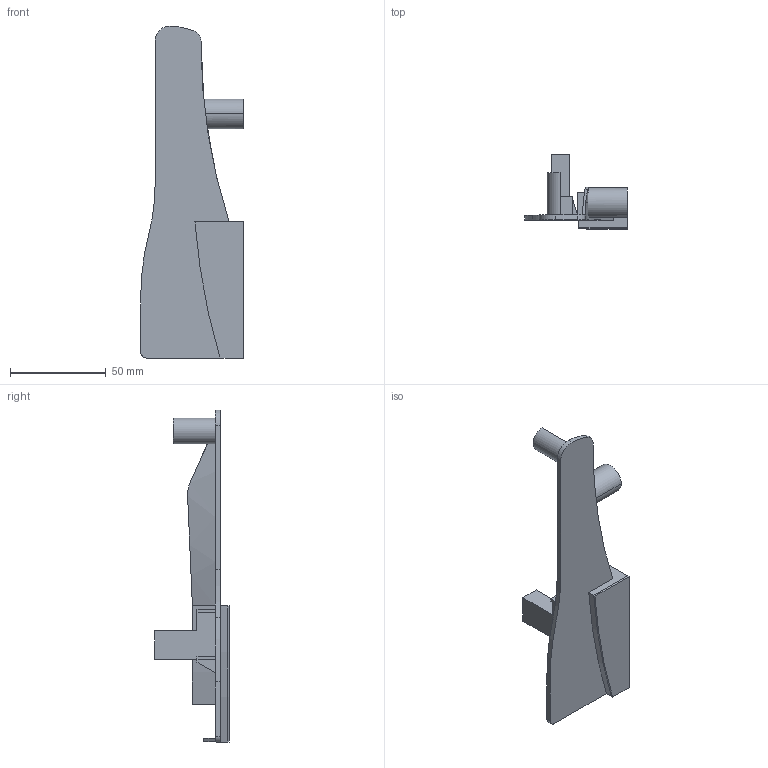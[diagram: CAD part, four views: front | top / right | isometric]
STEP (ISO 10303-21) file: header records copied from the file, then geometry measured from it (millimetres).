
FILE_DESCRIPTION (( 'STEP AP214' ), '1' );
FILE_NAME ('Blendenhalter XP H182 links_KK066150001.step', '2012-03-01T06:50:43', ( 'Grass' ), ( '' ), 'SwSTEP 2.0', 'SolidWorks 2011', '' );
FILE_SCHEMA (( 'AUTOMOTIVE_DESIGN' ));
Length unit declared in the file: millimetre
Products named in the file (1): Blendenhalter XP H182 links_KK066150001
Bounding box: 53.5 x 38.6 x 172.98 mm (x, y, z)
Volume: 50596.4 mm3; surface area: 22808.7 mm2
Topology: 1 solids, 1 shells, 62 faces, 166 edges, 108 vertices
Faces by surface type: plane 45, cylinder 17
Entity records: 2041 total; most frequent: CARTESIAN_POINT 455, ORIENTED_EDGE 332, DIRECTION 311, EDGE_CURVE 166, VECTOR 125, LINE 125, VERTEX_POINT 108, AXIS2_PLACEMENT_3D 93
